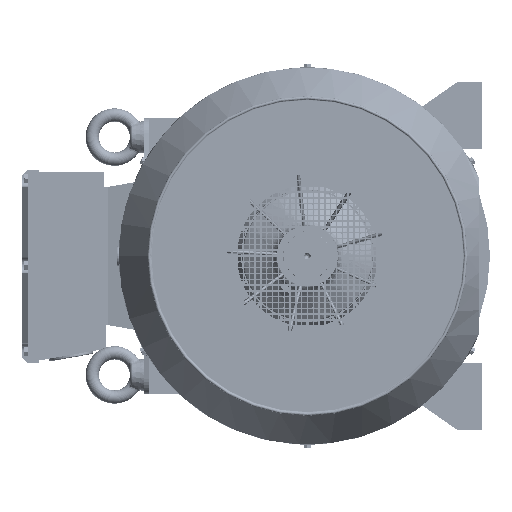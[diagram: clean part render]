
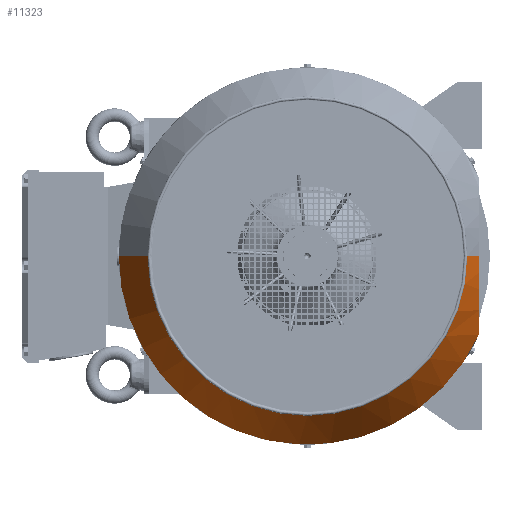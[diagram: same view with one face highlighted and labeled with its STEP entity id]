
A CAD part, left-side view. The second image highlights one B-rep face of the part: STEP entity #11323.
In plain terms, the highlighted conical face has half-angle 30 degrees and reference radius 341 mm.
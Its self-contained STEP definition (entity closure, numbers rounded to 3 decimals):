
#11206 = VERTEX_POINT ( 'NONE', #218618 ) ;
#11209 = EDGE_CURVE ( 'NONE', #11295, #11206, #218609, .T. ) ;
#11276 = ORIENTED_EDGE ( 'NONE', *, *, #11278, .T. ) ;
#11278 = EDGE_CURVE ( 'NONE', #11420, #11281, #218951, .T. ) ;
#11281 = VERTEX_POINT ( 'NONE', #218949 ) ;
#11284 = ORIENTED_EDGE ( 'NONE', *, *, #11286, .F. ) ;
#11286 = EDGE_CURVE ( 'NONE', #11295, #11281, #218955, .T. ) ;
#11295 = VERTEX_POINT ( 'NONE', #219062 ) ;
#11323 = ADVANCED_FACE ( 'NONE', ( #219162 ), #219161, .T. ) ;
#11324 = EDGE_LOOP ( 'NONE', ( #11411, #11412, #11416, #11276, #11284 ) ) ;
#11411 = ORIENTED_EDGE ( 'NONE', *, *, #11209, .T. ) ;
#11412 = ORIENTED_EDGE ( 'NONE', *, *, #11413, .T. ) ;
#11413 = EDGE_CURVE ( 'NONE', #11206, #11414, #219956, .T. ) ;
#11414 = VERTEX_POINT ( 'NONE', #219951 ) ;
#11416 = ORIENTED_EDGE ( 'NONE', *, *, #11417, .F. ) ;
#11417 = EDGE_CURVE ( 'NONE', #11420, #11414, #219939, .T. ) ;
#11420 = VERTEX_POINT ( 'NONE', #219943 ) ;
#218599 = DIRECTION ( 'NONE',  ( 0., 0., -1. ) ) ;
#218601 = DIRECTION ( 'NONE',  ( 0., -1., 0. ) ) ;
#218604 = CARTESIAN_POINT ( 'NONE',  ( 0., 312., 0. ) ) ;
#218606 = AXIS2_PLACEMENT_3D ( 'NONE', #218604, #218601, #218599 ) ;
#218609 = CIRCLE ( 'NONE', #218606, 289. ) ;
#218618 = CARTESIAN_POINT ( 'NONE',  ( 0., 312., 289. ) ) ;
#218898 = CARTESIAN_POINT ( 'NONE',  ( 112.505, 241.365, -310. ) ) ;
#218900 = CARTESIAN_POINT ( 'NONE',  ( 115.285, 239.704, -310. ) ) ;
#218903 = CARTESIAN_POINT ( 'NONE',  ( 116.667, 238.865, -310. ) ) ;
#218906 = CARTESIAN_POINT ( 'NONE',  ( 120.792, 236.323, -310. ) ) ;
#218921 = DIRECTION ( 'NONE',  ( 0., -0.866, -0.5 ) ) ;
#218922 = VECTOR ( 'NONE', #218921, 1000. ) ;
#218924 = CARTESIAN_POINT ( 'NONE',  ( 0., 221.933, -341. ) ) ;
#218936 = CARTESIAN_POINT ( 'NONE',  ( 123.512, 234.595, -310. ) ) ;
#218939 = CARTESIAN_POINT ( 'NONE',  ( 131.592, 229.318, -310. ) ) ;
#218942 = CARTESIAN_POINT ( 'NONE',  ( 136.871, 225.677, -310. ) ) ;
#218944 = CARTESIAN_POINT ( 'NONE',  ( 142.06, 221.933, -310. ) ) ;
#218949 = CARTESIAN_POINT ( 'NONE',  ( 0., 275.627, -310. ) ) ;
#218951 = B_SPLINE_CURVE_WITH_KNOTS ( 'NONE', 3,
 ( #218944, #218942, #218939, #218936, #218906, #218903, #218900, #218898, #219120, #219117, #219115, #219112, #219109, #219107, #219104, #219101, #219098, #219096, #219094, #219093, #219091, #219087, #219084, #219081 ),
 .UNSPECIFIED., .F., .F.,
 ( 4, 2, 2, 2, 2, 2, 2, 2, 2, 2, 2, 4 ),
 ( 0.159, 0.178, 0.188, 0.192, 0.197, 0.216, 0.235, 0.255, 0.264, 0.269, 0.274, 0.312 ),
 .UNSPECIFIED. ) ;
#218955 = LINE ( 'NONE', #218924, #218922 ) ;
#219062 = CARTESIAN_POINT ( 'NONE',  ( 0., 312., -289. ) ) ;
#219081 = CARTESIAN_POINT ( 'NONE',  ( 0., 275.627, -310. ) ) ;
#219084 = CARTESIAN_POINT ( 'NONE',  ( 12.784, 275.627, -310. ) ) ;
#219087 = CARTESIAN_POINT ( 'NONE',  ( 25.535, 274.252, -310. ) ) ;
#219091 = CARTESIAN_POINT ( 'NONE',  ( 39.842, 271.218, -310. ) ) ;
#219093 = CARTESIAN_POINT ( 'NONE',  ( 41.43, 270.86, -310. ) ) ;
#219094 = CARTESIAN_POINT ( 'NONE',  ( 44.588, 270.108, -310. ) ) ;
#219096 = CARTESIAN_POINT ( 'NONE',  ( 46.16, 269.714, -310. ) ) ;
#219098 = CARTESIAN_POINT ( 'NONE',  ( 50.852, 268.477, -310. ) ) ;
#219101 = CARTESIAN_POINT ( 'NONE',  ( 53.95, 267.581, -310. ) ) ;
#219104 = CARTESIAN_POINT ( 'NONE',  ( 63.164, 264.695, -310. ) ) ;
#219107 = CARTESIAN_POINT ( 'NONE',  ( 69.196, 262.504, -310. ) ) ;
#219109 = CARTESIAN_POINT ( 'NONE',  ( 81.071, 257.659, -310. ) ) ;
#219112 = CARTESIAN_POINT ( 'NONE',  ( 86.913, 255.005, -310. ) ) ;
#219115 = CARTESIAN_POINT ( 'NONE',  ( 98.43, 249.292, -310. ) ) ;
#219117 = CARTESIAN_POINT ( 'NONE',  ( 104.106, 246.232, -310. ) ) ;
#219120 = CARTESIAN_POINT ( 'NONE',  ( 111.108, 242.186, -310. ) ) ;
#219142 = DIRECTION ( 'NONE',  ( 0., 0., -1. ) ) ;
#219145 = DIRECTION ( 'NONE',  ( 0., -1., 0. ) ) ;
#219147 = CARTESIAN_POINT ( 'NONE',  ( 0., 221.933, 0. ) ) ;
#219149 = AXIS2_PLACEMENT_3D ( 'NONE', #219147, #219145, #219142 ) ;
#219161 = CONICAL_SURFACE ( 'NONE', #219149, 341., 0.524 ) ;
#219162 = FACE_OUTER_BOUND ( 'NONE', #11324, .T. ) ;
#219930 = DIRECTION ( 'NONE',  ( 0., 0., -1. ) ) ;
#219933 = DIRECTION ( 'NONE',  ( 0., -1., 0. ) ) ;
#219934 = CARTESIAN_POINT ( 'NONE',  ( 0., 221.933, 0. ) ) ;
#219937 = AXIS2_PLACEMENT_3D ( 'NONE', #219934, #219933, #219930 ) ;
#219939 = CIRCLE ( 'NONE', #219937, 341. ) ;
#219943 = CARTESIAN_POINT ( 'NONE',  ( 142.06, 221.933, -310. ) ) ;
#219951 = CARTESIAN_POINT ( 'NONE',  ( 0., 221.933, 341. ) ) ;
#219952 = DIRECTION ( 'NONE',  ( 0., -0.866, 0.5 ) ) ;
#219954 = VECTOR ( 'NONE', #219952, 1000. ) ;
#219955 = CARTESIAN_POINT ( 'NONE',  ( 0., 221.933, 341. ) ) ;
#219956 = LINE ( 'NONE', #219955, #219954 ) ;
